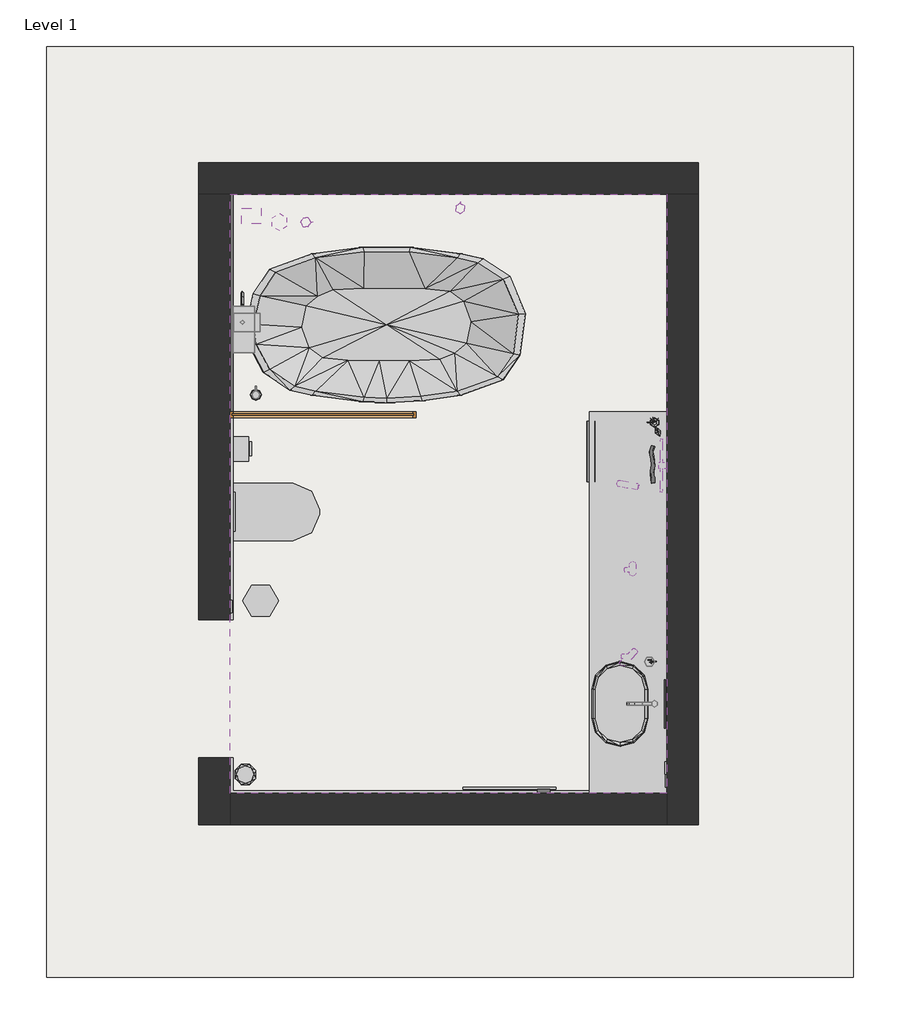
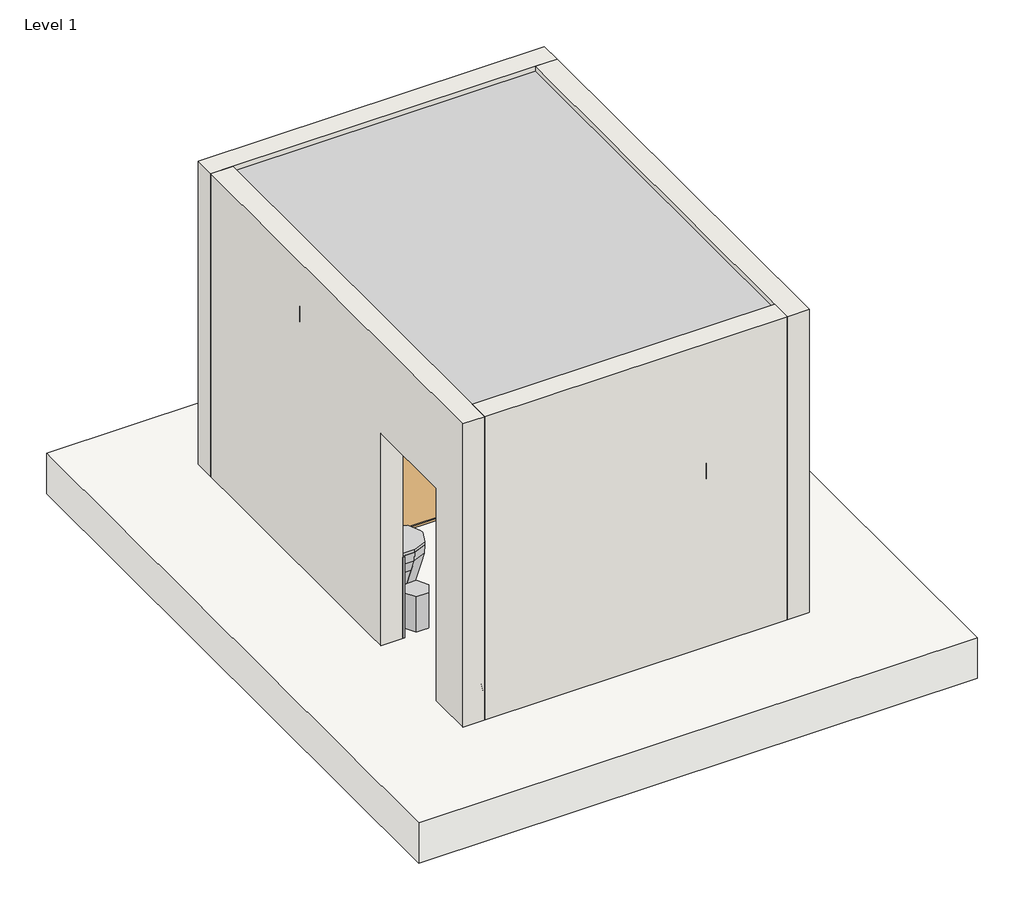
# One storey, incomplete: 29 geographic elements, 4 proxies, 4 walls, 3 light fixtures, 1 door, 1 slab.
"""IFC4 building model written with IfcOpenShell, lengths in millimetres."""

from ifc_helpers import new_model, si_unit, frame, origin, origin_with_axes, place, context, project, spatial, polyline, outline, extrude, faceted_brep, transform, mapped, element, save
from components import generic_models_2_generic_models_2_158e1299, generic_models_3_generic_models_3_543b1663, generic_models_4_generic_models_4_5c48e4ab, generic_models_5_generic_models_5_e771dfb2, doors_1_doors_1_f20e9d7d, geographic_element_906ff1fe, geographic_element_36948085, enscape_assetdefinition_bathroom_sink_002_enscape_5c1a21d4, enscape_assetdefinition_bathtub_001_enscape_assetdefinition_a450a732, enscape_assetdefinition_creme_tube_002_enscape_c31c35f7, enscape_assetdefinition_faucet_015_enscape_assetdefinition_f2fae8d0, enscape_assetdefinition_flush_plate_001_enscape_06e231af, enscape_assetdefinition_heater_018_enscape_assetdefinition_5c8a2fdc, enscape_assetdefinition_light_switch_002_enscape_6b1c9711, enscape_assetdefinition_paper_roll_003_enscape_766b7e0f, enscape_assetdefinition_power_socket_001_enscape_5ca5412b, enscape_assetdefinition_shower_head_003_enscape_cfe87c56, enscape_assetdefinition_soap_dispenser_001_enscape_c80f563d, enscape_assetdefinition_soap_dispenser_004_enscape_f50e4718, enscape_assetdefinition_soap_dispenser_006_enscape_0d2ccca4, enscape_assetdefinition_soap_tray_001_enscape_bdb6e4f8, enscape_assetdefinition_throw_002_enscape_assetdefinition_a0419d1c, enscape_assetdefinition_toilet_005_enscape_assetdefinition_9791f3e8, enscape_assetdefinition_toilet_brush_002_enscape_6c5018a6, enscape_assetdefinition_toilet_paper_002_enscape_c57897bd, enscape_assetdefinition_towel_001_enscape_assetdefinition_f5699c52, enscape_assetdefinition_towel_007_enscape_assetdefinition_5b0beda9, enscape_assetdefinition_towel_008_basket_enscape_c9c0a9e4, enscape_assetdefinition_towel_009_stack_enscape_b6bb47ce, enscape_assetdefinition_towel_rack_003_enscape_52cf1950, light_fixture_6a247ec5, light_fixture_f12659c4, light_fixture_bf18bd5a

model = new_model("IFC4")

# Units and contexts
model_context = context("Model", 3, world=origin())
ifc_project = project(units=[si_unit("LENGTHUNIT", "METRE", prefix="MILLI")], contexts=[model_context])

# Site, building, storey
site = spatial("IfcSite", under=ifc_project)
building = spatial("IfcBuilding", under=site)
storey = spatial("IfcBuildingStorey", under=building, Name="Level 1", Elevation=0.0)

# Proxies
placement = place(None, origin())
generic_models_2_generic_models_2_shape = generic_models_2_generic_models_2_158e1299(model_context)
element("IfcBuildingElementProxy", 1, Name="Generic Models 2 : Generic Models 2", ObjectType="Generic Models 2 : Generic Models 2", at=placement, inside=storey, context=model_context, shape_type="MappedRepresentation", body=[
    mapped(generic_models_2_generic_models_2_shape, transform((0.0, 0.0, 0.0), x_axis=(1.0, 0.0, 0.0), y_axis=(0.0, 1.0, 0.0), z_axis=(0.0, 0.0, 1.0))),
])
generic_models_3_generic_models_3_shape = generic_models_3_generic_models_3_543b1663(model_context)
element("IfcBuildingElementProxy", 2, Name="Generic Models 3 : Generic Models 3", ObjectType="Generic Models 3 : Generic Models 3", at=placement, inside=storey, context=model_context, shape_type="MappedRepresentation", body=[
    mapped(generic_models_3_generic_models_3_shape, transform((0.0, 0.0, 0.0), x_axis=(1.0, 0.0, 0.0), y_axis=(0.0, 1.0, 0.0), z_axis=(0.0, 0.0, 1.0))),
])
generic_models_4_generic_models_4_shape = generic_models_4_generic_models_4_5c48e4ab(model_context)
element("IfcBuildingElementProxy", 3, Name="Generic Models 4 : Generic Models 4", ObjectType="Generic Models 4 : Generic Models 4", at=placement, inside=storey, context=model_context, shape_type="MappedRepresentation", body=[
    mapped(generic_models_4_generic_models_4_shape, transform((0.0, 0.0, 0.0), x_axis=(1.0, 0.0, 0.0), y_axis=(0.0, 1.0, 0.0), z_axis=(0.0, 0.0, 1.0))),
])
generic_models_5_generic_models_5_shape = generic_models_5_generic_models_5_e771dfb2(model_context)
element("IfcBuildingElementProxy", 4, Name="Generic Models 5 : Generic Models 5", ObjectType="Generic Models 5 : Generic Models 5", at=placement, inside=storey, context=model_context, shape_type="MappedRepresentation", body=[
    mapped(generic_models_5_generic_models_5_shape, transform((0.0, -0.2076788, 137.5654318), x_axis=(1.0, 0.0, 0.0), y_axis=(0.0, 1.0, 0.0), z_axis=(0.0, 0.0, 1.0))),
])

# Door
doors_1_doors_1_shape = doors_1_doors_1_f20e9d7d(model_context)
element("IfcDoor", 5, ObjectType="Doors 1 : Doors 1", at=placement, inside=storey, context=model_context, shape_type="MappedRepresentation", body=[
    mapped(doors_1_doors_1_shape, transform((0.0, 0.0, 0.0), x_axis=(1.0, 0.0, 0.0), y_axis=(0.0, 1.0, 0.0), z_axis=(0.0, 0.0, 1.0))),
])

# Geographic elements
geographic_element_shape = geographic_element_906ff1fe(model_context)
element("IfcGeographicElement", 6, ObjectType="Enscape AssetDefinition - Decorative Goods 030 Room Fragrance : Enscape AssetDefinition - Decorative Goods 030 Room Fragrance", at=placement, inside=storey, context=model_context, shape_type="MappedRepresentation", body=[
    mapped(geographic_element_shape, transform((14007.9756115, 12048.2664981, 800.0), x_axis=(1.0, 0.0, 0.0), y_axis=(0.0, 1.0, 0.0), z_axis=(0.0, 0.0, 1.0))),
])
geographic_element_2_shape = geographic_element_36948085(model_context)
element("IfcGeographicElement", 7, ObjectType="Enscape AssetDefinition - Garbage Can 003 : Enscape AssetDefinition - Garbage Can 003", at=placement, inside=storey, context=model_context, shape_type="MappedRepresentation", body=[
    mapped(geographic_element_2_shape, transform((11467.9756115, 10899.8664981, 0.0), x_axis=(1.0, 0.0, 0.0), y_axis=(0.0, 1.0, 0.0), z_axis=(0.0, 0.0, 1.0))),
])
enscape_assetdefinition_bathroom_sink_002_enscape_shape = enscape_assetdefinition_bathroom_sink_002_enscape_5c1a21d4(model_context)
element("IfcGeographicElement", 8, ObjectType="Enscape AssetDefinition - Bathroom Sink 002 : Enscape AssetDefinition - Bathroom Sink 002", at=placement, inside=storey, context=model_context, shape_type="MappedRepresentation", body=[
    mapped(enscape_assetdefinition_bathroom_sink_002_enscape_shape, transform((13784.3103823, 10234.6217699, 800.0), x_axis=(0.0, 1.0, 0.0), y_axis=(-1.0, 0.0, 0.0), z_axis=(0.0, 0.0, 1.0))),
])
enscape_assetdefinition_bathtub_001_enscape_assetdefinition_shape = enscape_assetdefinition_bathtub_001_enscape_assetdefinition_a450a732(model_context)
element("IfcGeographicElement", 9, ObjectType="Enscape AssetDefinition - Bathtub 001 : Enscape AssetDefinition - Bathtub 001", at=placement, inside=storey, context=model_context, shape_type="MappedRepresentation", body=[
    mapped(enscape_assetdefinition_bathtub_001_enscape_assetdefinition_shape, transform((12277.9756115, 12679.8664981, 0.0), x_axis=(0.0, 1.0, 0.0), y_axis=(-1.0, 0.0, 0.0), z_axis=(0.0, 0.0, 1.0))),
])
enscape_assetdefinition_creme_tube_002_enscape_shape = enscape_assetdefinition_creme_tube_002_enscape_c31c35f7(model_context)
element("IfcGeographicElement", 10, ObjectType="Enscape AssetDefinition - Creme Tube 002 : Enscape AssetDefinition - Creme Tube 002", at=placement, inside=storey, context=model_context, shape_type="MappedRepresentation", body=[
    mapped(enscape_assetdefinition_creme_tube_002_enscape_shape, transform((14028.7447697, 11988.0833202, 800.0), x_axis=(0.4383711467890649, -0.8987940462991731, 0.0), y_axis=(0.8987940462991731, 0.4383711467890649, 0.0), z_axis=(0.0, 0.0, 1.0))),
])
enscape_assetdefinition_faucet_015_enscape_assetdefinition_shape = enscape_assetdefinition_faucet_015_enscape_assetdefinition_f2fae8d0(model_context)
element("IfcGeographicElement", 11, ObjectType="Enscape AssetDefinition - Faucet 015 : Enscape AssetDefinition - Faucet 015", at=placement, inside=storey, context=model_context, shape_type="MappedRepresentation", body=[
    mapped(enscape_assetdefinition_faucet_015_enscape_assetdefinition_shape, transform((14007.9756115, 10235.5664981, 800.0), x_axis=(0.0, -1.0, 0.0), y_axis=(1.0, 0.0, 0.0), z_axis=(0.0, 0.0, 1.0))),
])
enscape_assetdefinition_flush_plate_001_enscape_shape = enscape_assetdefinition_flush_plate_001_enscape_06e231af(model_context)
element("IfcGeographicElement", 12, ObjectType="Enscape AssetDefinition - Flush Plate 001 : Enscape AssetDefinition - Flush Plate 001", at=placement, inside=storey, context=model_context, shape_type="MappedRepresentation", body=[
    mapped(enscape_assetdefinition_flush_plate_001_enscape_shape, transform((11289.5756115, 11473.0282834, 713.2171696), x_axis=(0.0, 1.0, 0.0), y_axis=(-1.0, 0.0, 0.0), z_axis=(0.0, 0.0, 1.0))),
])
enscape_assetdefinition_heater_018_enscape_assetdefinition_shape = enscape_assetdefinition_heater_018_enscape_assetdefinition_5c8a2fdc(model_context)
element("IfcGeographicElement", 13, ObjectType="Enscape AssetDefinition - Heater 018 : Enscape AssetDefinition - Heater 018", at=placement, inside=storey, context=model_context, shape_type="MappedRepresentation", body=[
    mapped(enscape_assetdefinition_heater_018_enscape_assetdefinition_shape, transform((13071.6652889, 9658.6664981, 800.0), x_axis=(-1.0, 0.0, 0.0), y_axis=(0.0, -1.0, 0.0), z_axis=(0.0, 0.0, 1.0))),
])
enscape_assetdefinition_light_switch_002_enscape_shape = enscape_assetdefinition_light_switch_002_enscape_6b1c9711(model_context)
element("IfcGeographicElement", 14, ObjectType="Enscape AssetDefinition - Light Switch 002 : Enscape AssetDefinition - Light Switch 002", at=placement, inside=storey, context=model_context, shape_type="MappedRepresentation", body=[
    mapped(enscape_assetdefinition_light_switch_002_enscape_shape, transform((11269.5756115, 10863.2664981, 1000.0), x_axis=(0.0, 1.0, 0.0), y_axis=(-1.0, 0.0, 0.0), z_axis=(0.0, 0.0, 1.0))),
])
element("IfcGeographicElement", 15, ObjectType="Enscape AssetDefinition - Light Switch 002 : Enscape AssetDefinition - Light Switch 002", at=placement, inside=storey, context=model_context, shape_type="MappedRepresentation", body=[
    mapped(enscape_assetdefinition_light_switch_002_enscape_shape, transform((14086.3756115, 9822.0664981, 1000.0), x_axis=(0.0, -1.0, 0.0), y_axis=(1.0, 0.0, 0.0), z_axis=(0.0, 0.0, 1.0))),
])
enscape_assetdefinition_paper_roll_003_enscape_shape = enscape_assetdefinition_paper_roll_003_enscape_766b7e0f(model_context)
element("IfcGeographicElement", 16, ObjectType="Enscape AssetDefinition - Paper Roll 003 : Enscape AssetDefinition - Paper Roll 003", at=placement, inside=storey, context=model_context, shape_type="MappedRepresentation", body=[
    mapped(enscape_assetdefinition_paper_roll_003_enscape_shape, transform((13827.2894061, 11401.6656066, 415.1025943), x_axis=(1.0, 0.0, 0.0), y_axis=(0.0, 1.0, 0.0), z_axis=(0.0, 0.0, 1.0))),
])
enscape_assetdefinition_power_socket_001_enscape_shape = enscape_assetdefinition_power_socket_001_enscape_5ca5412b(model_context)
element("IfcGeographicElement", 17, ObjectType="Enscape AssetDefinition - Power Socket 001 : Enscape AssetDefinition - Power Socket 001", at=placement, inside=storey, context=model_context, shape_type="MappedRepresentation", body=[
    mapped(enscape_assetdefinition_power_socket_001_enscape_shape, transform((14086.3756115, 9737.0664981, 1000.0), x_axis=(0.0, -1.0, 0.0), y_axis=(1.0, 0.0, 0.0), z_axis=(0.0, 0.0, 1.0))),
])
enscape_assetdefinition_shower_head_003_enscape_shape = enscape_assetdefinition_shower_head_003_enscape_cfe87c56(model_context)
element("IfcGeographicElement", 18, ObjectType="Enscape AssetDefinition - Shower Head 003 : Enscape AssetDefinition - Shower Head 003", at=placement, inside=storey, context=model_context, shape_type="MappedRepresentation", body=[
    mapped(enscape_assetdefinition_shower_head_003_enscape_shape, transform((11289.5756115, 12693.2664981, -29.3250779), x_axis=(0.0, 1.0, 0.0), y_axis=(-1.0, 0.0, 0.0), z_axis=(0.0, 0.0, 1.0))),
])
enscape_assetdefinition_soap_dispenser_001_enscape_shape = enscape_assetdefinition_soap_dispenser_001_enscape_c80f563d(model_context)
element("IfcGeographicElement", 19, ObjectType="Enscape AssetDefinition - Soap Dispenser 001 : Enscape AssetDefinition - Soap Dispenser 001", at=placement, inside=storey, context=model_context, shape_type="MappedRepresentation", body=[
    mapped(enscape_assetdefinition_soap_dispenser_001_enscape_shape, transform((11587.9756115, 13339.8664981, 1407.6049514), x_axis=(1.0, 0.0, 0.0), y_axis=(0.0, 1.0, 0.0), z_axis=(0.0, 0.0, 1.0))),
])
enscape_assetdefinition_soap_dispenser_004_enscape_shape = enscape_assetdefinition_soap_dispenser_004_enscape_f50e4718(model_context)
element("IfcGeographicElement", 20, ObjectType="Enscape AssetDefinition - Soap Dispenser 004 : Enscape AssetDefinition - Soap Dispenser 004", at=placement, inside=storey, context=model_context, shape_type="MappedRepresentation", body=[
    mapped(enscape_assetdefinition_soap_dispenser_004_enscape_shape, transform((13975.0804964, 10507.2768797, 800.0), x_axis=(1.0, 0.0, 0.0), y_axis=(0.0, 1.0, 0.0), z_axis=(0.0, 0.0, 1.0))),
])
element("IfcGeographicElement", 21, ObjectType="Enscape AssetDefinition - Soap Dispenser 004 : Enscape AssetDefinition - Soap Dispenser 004", at=placement, inside=storey, context=model_context, shape_type="MappedRepresentation", body=[
    mapped(enscape_assetdefinition_soap_dispenser_004_enscape_shape, transform((11757.9756115, 13339.8664981, 1407.4703385), x_axis=(1.0, 0.0, 0.0), y_axis=(0.0, 1.0, 0.0), z_axis=(0.0, 0.0, 1.0))),
])
element("IfcGeographicElement", 22, ObjectType="Enscape AssetDefinition - Soap Dispenser 004 : Enscape AssetDefinition - Soap Dispenser 004", at=placement, inside=storey, context=model_context, shape_type="MappedRepresentation", body=[
    mapped(enscape_assetdefinition_soap_dispenser_004_enscape_shape, transform((12754.1703096, 13427.0222408, 1407.4703385), x_axis=(0.0, 1.0, 0.0), y_axis=(-1.0, 0.0, 0.0), z_axis=(0.0, 0.0, 1.0))),
])
enscape_assetdefinition_soap_dispenser_006_enscape_shape = enscape_assetdefinition_soap_dispenser_006_enscape_0d2ccca4(model_context)
element("IfcGeographicElement", 23, ObjectType="Enscape AssetDefinition - Soap Dispenser 006 : Enscape AssetDefinition - Soap Dispenser 006", at=placement, inside=storey, context=model_context, shape_type="MappedRepresentation", body=[
    mapped(enscape_assetdefinition_soap_dispenser_006_enscape_shape, transform((11436.3756115, 12226.6781516, 420.0), x_axis=(-1.0, 0.0, 0.0), y_axis=(0.0, -1.0, 0.0), z_axis=(0.0, 0.0, 1.0))),
])
enscape_assetdefinition_soap_tray_001_enscape_shape = enscape_assetdefinition_soap_tray_001_enscape_bdb6e4f8(model_context)
element("IfcGeographicElement", 24, ObjectType="Enscape AssetDefinition - Soap Tray 001 : Enscape AssetDefinition - Soap Tray 001", at=placement, inside=storey, context=model_context, shape_type="MappedRepresentation", body=[
    mapped(enscape_assetdefinition_soap_tray_001_enscape_shape, transform((11407.9756115, 13379.8664981, 1407.6049514), x_axis=(1.0, 0.0, 0.0), y_axis=(0.0, 1.0, 0.0), z_axis=(0.0, 0.0, 1.0))),
])
enscape_assetdefinition_throw_002_enscape_assetdefinition_shape = enscape_assetdefinition_throw_002_enscape_assetdefinition_a0419d1c(model_context)
element("IfcGeographicElement", 25, ObjectType="Enscape AssetDefinition - Throw 002 : Enscape AssetDefinition - Throw 002", at=placement, inside=storey, context=model_context, shape_type="MappedRepresentation", body=[
    mapped(enscape_assetdefinition_throw_002_enscape_assetdefinition_shape, transform((13754.2894756, 11861.4602283, 593.5), x_axis=(0.0, -1.0, 0.0), y_axis=(1.0, 0.0, 0.0), z_axis=(0.0, 0.0, 1.0))),
])
enscape_assetdefinition_toilet_005_enscape_assetdefinition_shape = enscape_assetdefinition_toilet_005_enscape_assetdefinition_9791f3e8(model_context)
element("IfcGeographicElement", 26, ObjectType="Enscape AssetDefinition - Toilet 005 : Enscape AssetDefinition - Toilet 005", at=placement, inside=storey, context=model_context, shape_type="MappedRepresentation", body=[
    mapped(enscape_assetdefinition_toilet_005_enscape_assetdefinition_shape, transform((11289.5756115, 11471.4664981, 0.0), x_axis=(0.0, 1.0, 0.0), y_axis=(-1.0, 0.0, 0.0), z_axis=(0.0, 0.0, 1.0))),
])
enscape_assetdefinition_toilet_brush_002_enscape_shape = enscape_assetdefinition_toilet_brush_002_enscape_6c5018a6(model_context)
element("IfcGeographicElement", 27, ObjectType="Enscape AssetDefinition - Toilet Brush 002 : Enscape AssetDefinition - Toilet Brush 002", at=placement, inside=storey, context=model_context, shape_type="MappedRepresentation", body=[
    mapped(enscape_assetdefinition_toilet_brush_002_enscape_shape, transform((11369.5756115, 9779.8664981, 0.0), x_axis=(1.0, 0.0, 0.0), y_axis=(0.0, 1.0, 0.0), z_axis=(0.0, 0.0, 1.0))),
])
enscape_assetdefinition_toilet_paper_002_enscape_shape = enscape_assetdefinition_toilet_paper_002_enscape_c57897bd(model_context)
element("IfcGeographicElement", 28, ObjectType="Enscape AssetDefinition - Toilet Paper 002 : Enscape AssetDefinition - Toilet Paper 002", at=placement, inside=storey, context=model_context, shape_type="MappedRepresentation", body=[
    mapped(enscape_assetdefinition_toilet_paper_002_enscape_shape, transform((11289.5756115, 11878.2664981, 450.0), x_axis=(0.0, 1.0, 0.0), y_axis=(-1.0, 0.0, 0.0), z_axis=(0.0, 0.0, 1.0))),
])
enscape_assetdefinition_towel_001_enscape_assetdefinition_shape = enscape_assetdefinition_towel_001_enscape_assetdefinition_f5699c52(model_context)
element("IfcGeographicElement", 29, ObjectType="Enscape AssetDefinition - Towel 001 : Enscape AssetDefinition - Towel 001", at=placement, inside=storey, context=model_context, shape_type="MappedRepresentation", body=[
    mapped(enscape_assetdefinition_towel_001_enscape_assetdefinition_shape, transform((14031.3756115, 11676.8109795, 1397.1909921), x_axis=(0.0, -1.0, 0.0), y_axis=(1.0, 0.0, 0.0), z_axis=(0.0, 0.0, 1.0))),
])
enscape_assetdefinition_towel_007_enscape_assetdefinition_shape = enscape_assetdefinition_towel_007_enscape_assetdefinition_5b0beda9(model_context)
element("IfcGeographicElement", 30, ObjectType="Enscape AssetDefinition - Towel 007 : Enscape AssetDefinition - Towel 007", at=placement, inside=storey, context=model_context, shape_type="MappedRepresentation", body=[
    mapped(enscape_assetdefinition_towel_007_enscape_assetdefinition_shape, transform((13830.1182954, 11643.9305101, 50.0), x_axis=(1.0, 0.0, 0.0), y_axis=(0.0, 1.0, 0.0), z_axis=(0.0, 0.0, 1.0))),
])
element("IfcGeographicElement", 31, ObjectType="Enscape AssetDefinition - Towel 007 : Enscape AssetDefinition - Towel 007", at=placement, inside=storey, context=model_context, shape_type="MappedRepresentation", body=[
    mapped(enscape_assetdefinition_towel_007_enscape_assetdefinition_shape, transform((13841.9067038, 11829.1490361, 50.0), x_axis=(1.0, 0.0, 0.0), y_axis=(0.0, 1.0, 0.0), z_axis=(0.0, 0.0, 1.0))),
])
enscape_assetdefinition_towel_008_basket_enscape_shape = enscape_assetdefinition_towel_008_basket_enscape_c9c0a9e4(model_context)
element("IfcGeographicElement", 32, ObjectType="Enscape AssetDefinition - Towel 008 Basket : Enscape AssetDefinition - Towel 008 Basket", at=placement, inside=storey, context=model_context, shape_type="MappedRepresentation", body=[
    mapped(enscape_assetdefinition_towel_008_basket_enscape_shape, transform((13828.2626487, 11200.9282777, 50.0), x_axis=(0.0, -1.0, 0.0), y_axis=(1.0, 0.0, 0.0), z_axis=(0.0, 0.0, 1.0))),
])
enscape_assetdefinition_towel_009_stack_enscape_shape = enscape_assetdefinition_towel_009_stack_enscape_b6bb47ce(model_context)
element("IfcGeographicElement", 33, ObjectType="Enscape AssetDefinition - Towel 009 Stack : Enscape AssetDefinition - Towel 009 Stack", at=placement, inside=storey, context=model_context, shape_type="MappedRepresentation", body=[
    mapped(enscape_assetdefinition_towel_009_stack_enscape_shape, transform((13804.9769666, 11108.3453658, 415.1025943), x_axis=(1.0, 0.0, 0.0), y_axis=(0.0, 1.0, 0.0), z_axis=(0.0, 0.0, 1.0))),
])
enscape_assetdefinition_towel_rack_003_enscape_shape = enscape_assetdefinition_towel_rack_003_enscape_52cf1950(model_context)
element("IfcGeographicElement", 34, ObjectType="Enscape AssetDefinition - Towel Rack 003 : Enscape AssetDefinition - Towel Rack 003 2", at=placement, inside=storey, context=model_context, shape_type="MappedRepresentation", body=[
    mapped(enscape_assetdefinition_towel_rack_003_enscape_shape, transform((14086.3756115, 11771.1889921, 1637.6920421), x_axis=(0.0, -1.0, 0.0), y_axis=(1.0, 0.0, 0.0), z_axis=(0.0, 0.0, 1.0))),
])

# Light fixtures
light_fixture_shape = light_fixture_6a247ec5(model_context)
element("IfcLightFixture", 35, ObjectType="PIPES T XS : 630lm 7,8W 840 38°", at=placement, inside=storey, context=model_context, shape_type="MappedRepresentation", body=[
    mapped(light_fixture_shape, transform((13846.3756115, 10539.8664981, 2700.0), x_axis=(0.0, -1.0, 0.0), y_axis=(-1.0, 0.0, 0.0), z_axis=(0.0, 0.0, -1.0))),
])
light_fixture_2_shape = light_fixture_f12659c4(model_context)
element("IfcLightFixture", 36, ObjectType="PIPES T XS : 630lm 7,8W 840 38°", at=placement, inside=storey, context=model_context, shape_type="MappedRepresentation", body=[
    mapped(light_fixture_2_shape, transform((13866.3756115, 11099.8664981, 2700.0), x_axis=(0.0, -1.0, 0.0), y_axis=(-1.0, 0.0, 0.0), z_axis=(0.0, 0.0, -1.0))),
])
light_fixture_3_shape = light_fixture_bf18bd5a(model_context)
element("IfcLightFixture", 37, ObjectType="PIPES T XS : 630lm 7,8W 840 38°", at=placement, inside=storey, context=model_context, shape_type="MappedRepresentation", body=[
    mapped(light_fixture_3_shape, transform((13866.3756115, 11639.8664981, 2700.0), x_axis=(0.0, -1.0, 0.0), y_axis=(-1.0, 0.0, 0.0), z_axis=(0.0, 0.0, -1.0))),
])

# Slab
element("IfcSlab", 38, ObjectType="Concrete Slab - 6\"", at=placement, inside=storey, context=model_context, shape_type="SweptSolid", body=[
    extrude(outline(polyline([(10086.3756115, 14471.4664981), (15289.5756115, 14471.4664981), (15289.5756115, 8471.4664981), (10086.3756115, 8471.4664981), (10086.3756115, 14471.4664981)])), frame((0.0, 0.0, -400.0), z_axis=(0.0, 0.0, 1.0), x_axis=(1.0, 0.0, 0.0)), (0.0, 0.0, 1.0), 400.0),
])

# Walls
element("IfcWall", 39, ObjectType="Generic - 8\"", at=placement, inside=storey, context=model_context, shape_type="Brep", body=[
    faceted_brep([(11066.3756115, 13518.2664981, 0.0), (11269.5756115, 13518.2664981, 0.0), (14086.3756115, 13518.2664981, 0.0), (14289.5756115, 13518.2664981, 0.0), (14289.5756115, 13518.2664981, 2985.0), (14086.3756115, 13518.2664981, 2985.0), (11269.5756115, 13518.2664981, 2985.0), (11066.3756115, 13518.2664981, 2985.0), (11066.3756115, 13721.4664981, 0.0), (11066.3756115, 13721.4664981, 2985.0), (14289.5756115, 13721.4664981, 2985.0), (14289.5756115, 13721.4664981, 0.0)], [[[0, 1, 2, 3, 4, 5, 6, 7]], [[8, 9, 10, 11]], [[3, 2, 1, 0, 8, 11]], [[7, 6, 5, 4, 10, 9]], [[4, 3, 11, 10]], [[0, 7, 9, 8]]]),
])
element("IfcWall", 40, ObjectType="Generic - 8\"", at=placement, inside=storey, context=model_context, shape_type="Brep", body=[
    faceted_brep([(14086.3756115, 13518.2664981, 0.0), (14086.3756115, 9658.6664981, 0.0), (14086.3756115, 9455.4664981, 0.0), (14086.3756115, 9455.4664981, 2985.0), (14086.3756115, 9658.6664981, 2985.0), (14086.3756115, 13518.2664981, 2985.0), (14289.5756115, 13518.2664981, 0.0), (14289.5756115, 13518.2664981, 2985.0), (14289.5756115, 9455.4664981, 2985.0), (14289.5756115, 9455.4664981, 0.0)], [[[0, 1, 2, 3, 4, 5]], [[6, 7, 8, 9]], [[2, 1, 0, 6, 9]], [[5, 4, 3, 8, 7]], [[0, 5, 7, 6]], [[3, 2, 9, 8]]]),
])
element("IfcWall", 41, ObjectType="Generic - 8\"", at=placement, inside=storey, context=model_context, shape_type="Brep", body=[
    faceted_brep([(11269.5756115, 13518.2664981, 2985.0), (11269.5756115, 9658.6664981, 2985.0), (11269.5756115, 9455.4664981, 2985.0), (11269.5756115, 9455.4664981, 0.0), (11269.5756115, 9658.6664981, 0.0), (11269.5756115, 9888.0664981, 0.0), (11269.5756115, 9888.0664981, 2090.0), (11269.5756115, 10778.0664981, 2090.0), (11269.5756115, 10778.0664981, 0.0), (11269.5756115, 13518.2664981, 0.0), (11066.3756115, 9455.4664981, 2985.0), (11066.3756115, 13518.2664981, 2985.0), (11066.3756115, 13518.2664981, 0.0), (11066.3756115, 10778.0664981, 0.0), (11066.3756115, 10778.0664981, 2090.0), (11066.3756115, 9888.0664981, 2090.0), (11066.3756115, 9888.0664981, 0.0), (11066.3756115, 9455.4664981, 0.0)], [[[0, 1, 2, 3, 4, 5, 6, 7, 8, 9]], [[10, 11, 12, 13, 14, 15, 16, 17]], [[12, 9, 8, 13]], [[3, 17, 16, 5, 4]], [[2, 1, 0, 11, 10]], [[0, 9, 12, 11]], [[7, 14, 13, 8]], [[14, 7, 6, 15]], [[15, 6, 5, 16]], [[3, 2, 10, 17]]]),
])
element("IfcWall", 42, ObjectType="Generic - 8\"", at=placement, inside=storey, context=model_context, shape_type="SweptSolid", body=[
    extrude(outline(polyline([(11269.5756115, 9658.6664981), (14086.3756115, 9658.6664981), (14086.3756115, 9455.4664981), (11269.5756115, 9455.4664981), (11269.5756115, 9658.6664981)])), origin_with_axes(), (0.0, 0.0, 1.0), 2985.0),
])

save(model, "model.ifc")
